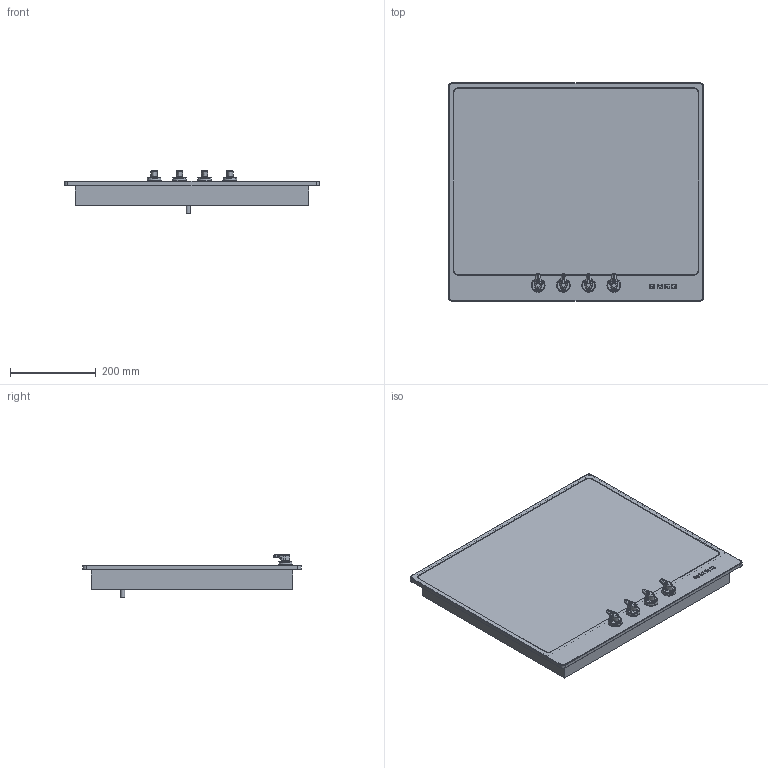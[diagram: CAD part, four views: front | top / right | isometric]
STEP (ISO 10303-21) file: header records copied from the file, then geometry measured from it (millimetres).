
FILE_DESCRIPTION(/* description */ (''),/* implementation_level */ '2;1');
FILE_NAME(/* name */ 'piano si964bm.stp',/* time_stamp */ '2019-03-11T15:00:05+01:00',/* author */ (''),/* organization */ (''),/* preprocessor_version */ 'ST-DEVELOPER v16',/* originating_system */ 'SIEMENS PLM Software NX 11.0',/* authorisation */ '');
FILE_SCHEMA (('AUTOMOTIVE_DESIGN { 1 0 10303 214 3 1 1 1 }'));
Length unit declared in the file: millimetre
Products named in the file (1): gobb2214BED370dr
Bounding box: 596 x 510 x 102.7 mm (x, y, z)
Volume: 14113830.6 mm3; surface area: 1327046.8 mm2
Topology: 15 solids, 15 shells, 405 faces, 996 edges, 612 vertices
Faces by surface type: plane 147, cylinder 114, torus 52, extrusion 40, bspline 32, sphere 16, cone 4
Full cylindrical faces by diameter (mm): 10 x1, 23 x4, 28 x4, 28.5 x4
Entity records: 15236 total; most frequent: CARTESIAN_POINT 5720, DIRECTION 2005, ORIENTED_EDGE 1886, EDGE_CURVE 943, AXIS2_PLACEMENT_3D 765, VERTEX_POINT 608, VECTOR 475, EDGE_LOOP 455
